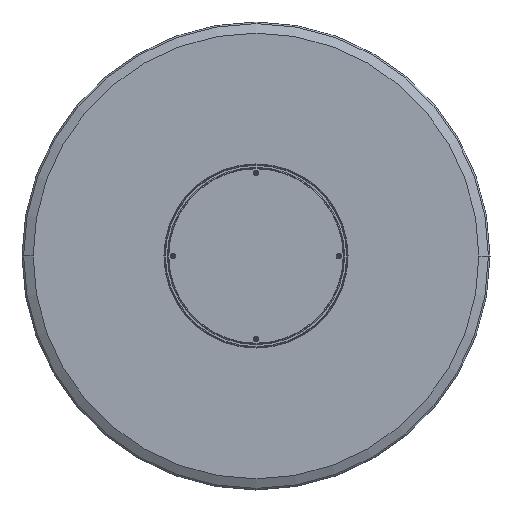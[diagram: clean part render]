
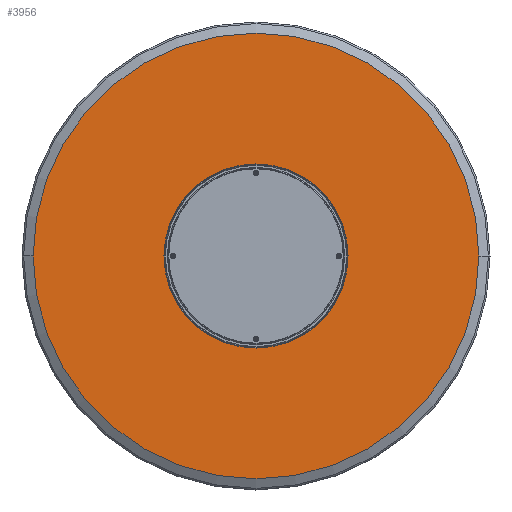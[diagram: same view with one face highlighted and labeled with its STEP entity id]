
A CAD part, front view. The second image highlights one B-rep face of the part: STEP entity #3956.
In plain terms, the highlighted planar face has unit normal (0, -1, 0).
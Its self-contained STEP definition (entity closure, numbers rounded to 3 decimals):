
#15 = CARTESIAN_POINT ( 'NONE',  ( 0., 0., 109.697 ) ) ;
#51 = CARTESIAN_POINT ( 'NONE',  ( -95., 0., -51.448 ) ) ;
#134 = ORIENTED_EDGE ( 'NONE', *, *, #2499, .T. ) ;
#307 = CIRCLE ( 'NONE', #5227, 484.323 ) ;
#445 = CARTESIAN_POINT ( 'NONE',  ( -95., 0., -54.848 ) ) ;
#471 = FACE_BOUND ( 'NONE', #5415, .T. ) ;
#491 = CIRCLE ( 'NONE', #3258, 3.4 ) ;
#563 = ORIENTED_EDGE ( 'NONE', *, *, #1637, .F. ) ;
#564 = AXIS2_PLACEMENT_3D ( 'NONE', #3227, #5984, #2327 ) ;
#705 = ORIENTED_EDGE ( 'NONE', *, *, #2462, .T. ) ;
#804 = FACE_BOUND ( 'NONE', #3872, .T. ) ;
#842 = DIRECTION ( 'NONE',  ( 0., 0., 1. ) ) ;
#892 = DIRECTION ( 'NONE',  ( 0., 0., 1. ) ) ;
#894 = CIRCLE ( 'NONE', #4061, 3.4 ) ;
#908 = VERTEX_POINT ( 'NONE', #3859 ) ;
#1084 = CARTESIAN_POINT ( 'NONE',  ( -95., 0., -54.848 ) ) ;
#1095 = CIRCLE ( 'NONE', #1386, 3.4 ) ;
#1114 = ORIENTED_EDGE ( 'NONE', *, *, #2062, .F. ) ;
#1157 = VERTEX_POINT ( 'NONE', #1238 ) ;
#1238 = CARTESIAN_POINT ( 'NONE',  ( 0., 0., 106.297 ) ) ;
#1313 = DIRECTION ( 'NONE',  ( 0., 0., 1. ) ) ;
#1323 = EDGE_CURVE ( 'NONE', #1157, #5821, #491, .T. ) ;
#1386 = AXIS2_PLACEMENT_3D ( 'NONE', #445, #3690, #842 ) ;
#1577 = DIRECTION ( 'NONE',  ( 0., 1., 0. ) ) ;
#1627 = CARTESIAN_POINT ( 'NONE',  ( 0., 0., 0. ) ) ;
#1637 = EDGE_CURVE ( 'NONE', #3628, #908, #3567, .T. ) ;
#1823 = EDGE_CURVE ( 'NONE', #2453, #4637, #1095, .T. ) ;
#2062 = EDGE_CURVE ( 'NONE', #908, #3628, #307, .T. ) ;
#2327 = DIRECTION ( 'NONE',  ( 0., 0., -1. ) ) ;
#2453 = VERTEX_POINT ( 'NONE', #51 ) ;
#2462 = EDGE_CURVE ( 'NONE', #4003, #3871, #894, .T. ) ;
#2499 = EDGE_CURVE ( 'NONE', #4637, #2453, #3480, .T. ) ;
#2557 = DIRECTION ( 'NONE',  ( 0., 0., 1. ) ) ;
#2969 = DIRECTION ( 'NONE',  ( 0., 0., 1. ) ) ;
#3220 = AXIS2_PLACEMENT_3D ( 'NONE', #4885, #3549, #4000 ) ;
#3227 = CARTESIAN_POINT ( 'NONE',  ( 0., 0., 0. ) ) ;
#3258 = AXIS2_PLACEMENT_3D ( 'NONE', #15, #5135, #1313 ) ;
#3262 = AXIS2_PLACEMENT_3D ( 'NONE', #1627, #4434, #2557 ) ;
#3318 = ORIENTED_EDGE ( 'NONE', *, *, #1823, .T. ) ;
#3335 = CARTESIAN_POINT ( 'NONE',  ( 0., 0., 113.097 ) ) ;
#3341 = DIRECTION ( 'NONE',  ( 0., 1., 0. ) ) ;
#3355 = CARTESIAN_POINT ( 'NONE',  ( 0., 0., -484.323 ) ) ;
#3433 = AXIS2_PLACEMENT_3D ( 'NONE', #4843, #1577, #5239 ) ;
#3480 = CIRCLE ( 'NONE', #4347, 3.4 ) ;
#3549 = DIRECTION ( 'NONE',  ( 0., 1., 0. ) ) ;
#3567 = CIRCLE ( 'NONE', #3262, 484.323 ) ;
#3576 = CARTESIAN_POINT ( 'NONE',  ( 95., 0., -51.448 ) ) ;
#3628 = VERTEX_POINT ( 'NONE', #3355 ) ;
#3684 = PLANE ( 'NONE',  #564 ) ;
#3690 = DIRECTION ( 'NONE',  ( 0., 1., 0. ) ) ;
#3859 = CARTESIAN_POINT ( 'NONE',  ( 0., 0., 484.323 ) ) ;
#3871 = VERTEX_POINT ( 'NONE', #3576 ) ;
#3872 = EDGE_LOOP ( 'NONE', ( #3318, #134 ) ) ;
#3952 = DIRECTION ( 'NONE',  ( 0., 1., 0. ) ) ;
#3956 = ADVANCED_FACE ( 'NONE', ( #804, #4116, #471, #6040 ), #3684, .T. ) ;
#4000 = DIRECTION ( 'NONE',  ( 0., 0., 1. ) ) ;
#4003 = VERTEX_POINT ( 'NONE', #4208 ) ;
#4061 = AXIS2_PLACEMENT_3D ( 'NONE', #5681, #3341, #892 ) ;
#4116 = FACE_BOUND ( 'NONE', #5326, .T. ) ;
#4208 = CARTESIAN_POINT ( 'NONE',  ( 95., 0., -58.248 ) ) ;
#4327 = ORIENTED_EDGE ( 'NONE', *, *, #1323, .T. ) ;
#4347 = AXIS2_PLACEMENT_3D ( 'NONE', #1084, #3952, #2969 ) ;
#4434 = DIRECTION ( 'NONE',  ( 0., 1., 0. ) ) ;
#4637 = VERTEX_POINT ( 'NONE', #4893 ) ;
#4791 = DIRECTION ( 'NONE',  ( 0., 0., 1. ) ) ;
#4843 = CARTESIAN_POINT ( 'NONE',  ( 0., 0., 109.697 ) ) ;
#4885 = CARTESIAN_POINT ( 'NONE',  ( 95., 0., -54.848 ) ) ;
#4893 = CARTESIAN_POINT ( 'NONE',  ( -95., 0., -58.248 ) ) ;
#4939 = ORIENTED_EDGE ( 'NONE', *, *, #5166, .T. ) ;
#5135 = DIRECTION ( 'NONE',  ( 0., 1., 0. ) ) ;
#5166 = EDGE_CURVE ( 'NONE', #3871, #4003, #5576, .T. ) ;
#5220 = DIRECTION ( 'NONE',  ( 0., 1., 0. ) ) ;
#5227 = AXIS2_PLACEMENT_3D ( 'NONE', #5723, #5220, #4791 ) ;
#5239 = DIRECTION ( 'NONE',  ( 0., 0., 1. ) ) ;
#5326 = EDGE_LOOP ( 'NONE', ( #4939, #705 ) ) ;
#5394 = CIRCLE ( 'NONE', #3433, 3.4 ) ;
#5415 = EDGE_LOOP ( 'NONE', ( #5961, #4327 ) ) ;
#5526 = EDGE_LOOP ( 'NONE', ( #1114, #563 ) ) ;
#5528 = EDGE_CURVE ( 'NONE', #5821, #1157, #5394, .T. ) ;
#5576 = CIRCLE ( 'NONE', #3220, 3.4 ) ;
#5681 = CARTESIAN_POINT ( 'NONE',  ( 95., 0., -54.848 ) ) ;
#5723 = CARTESIAN_POINT ( 'NONE',  ( 0., 0., 0. ) ) ;
#5821 = VERTEX_POINT ( 'NONE', #3335 ) ;
#5961 = ORIENTED_EDGE ( 'NONE', *, *, #5528, .T. ) ;
#5984 = DIRECTION ( 'NONE',  ( 0., -1., 0. ) ) ;
#6040 = FACE_OUTER_BOUND ( 'NONE', #5526, .T. ) ;
